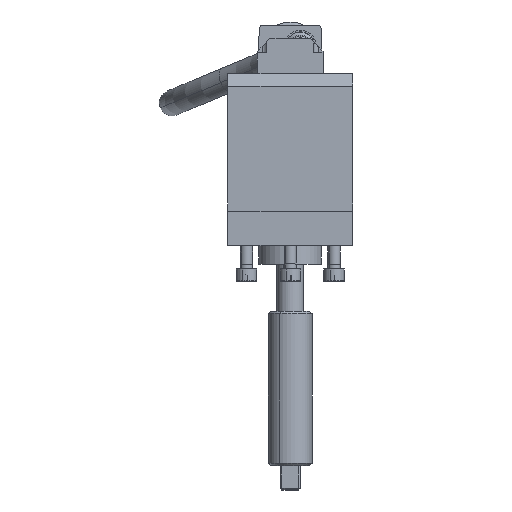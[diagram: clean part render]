
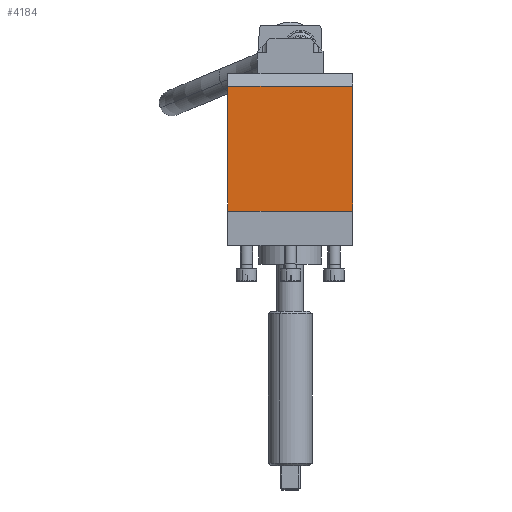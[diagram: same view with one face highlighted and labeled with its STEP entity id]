
A CAD part, top view. The second image highlights one B-rep face of the part: STEP entity #4184.
In plain terms, the highlighted planar face has unit normal (0, 0, 1).
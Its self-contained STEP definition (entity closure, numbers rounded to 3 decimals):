
#4123=CARTESIAN_POINT('Vertex',(40.,32.,510.1)) ;
#4139=CARTESIAN_POINT('Vertex',(-40.,32.,510.1)) ;
#4142=CARTESIAN_POINT('Line Origine',(0.,32.,510.1)) ;
#4154=CARTESIAN_POINT('Axis2P3D Location',(0.,-48.,510.1)) ;
#4159=CARTESIAN_POINT('Line Origine',(40.,-8.,510.1)) ;
#4163=CARTESIAN_POINT('Vertex',(40.,-48.,510.1)) ;
#4166=CARTESIAN_POINT('Line Origine',(-40.,-8.,510.1)) ;
#4170=CARTESIAN_POINT('Vertex',(-40.,-48.,510.1)) ;
#4173=CARTESIAN_POINT('Line Origine',(0.,-48.,510.1)) ;
#4143=DIRECTION('Vector Direction',(1.,0.,0.)) ;
#4155=DIRECTION('Axis2P3D Direction',(0.,0.,-1.)) ;
#4156=DIRECTION('Axis2P3D XDirection',(0.,1.,0.)) ;
#4160=DIRECTION('Vector Direction',(0.,1.,0.)) ;
#4167=DIRECTION('Vector Direction',(0.,1.,0.)) ;
#4174=DIRECTION('Vector Direction',(1.,0.,0.)) ;
#4157=AXIS2_PLACEMENT_3D('Plane Axis2P3D',#4154,#4155,#4156) ;
#4179=ORIENTED_EDGE('',*,*,#4165,.T.) ;
#4180=ORIENTED_EDGE('',*,*,#4146,.F.) ;
#4181=ORIENTED_EDGE('',*,*,#4172,.F.) ;
#4182=ORIENTED_EDGE('',*,*,#4177,.T.) ;
#4144=VECTOR('Line Direction',#4143,1.) ;
#4161=VECTOR('Line Direction',#4160,1.) ;
#4168=VECTOR('Line Direction',#4167,1.) ;
#4175=VECTOR('Line Direction',#4174,1.) ;
#4184=ADVANCED_FACE('',(#4183),#4158,.F.) ;
#4146=EDGE_CURVE('',#4140,#4124,#4145,.T.) ;
#4165=EDGE_CURVE('',#4164,#4124,#4162,.T.) ;
#4172=EDGE_CURVE('',#4171,#4140,#4169,.T.) ;
#4177=EDGE_CURVE('',#4171,#4164,#4176,.T.) ;
#4178=EDGE_LOOP('',(#4179,#4180,#4181,#4182)) ;
#4183=FACE_OUTER_BOUND('',#4178,.T.) ;
#4145=LINE('Line',#4142,#4144) ;
#4162=LINE('Line',#4159,#4161) ;
#4169=LINE('Line',#4166,#4168) ;
#4176=LINE('Line',#4173,#4175) ;
#4158=PLANE('Plane',#4157) ;
#4124=VERTEX_POINT('',#4123) ;
#4140=VERTEX_POINT('',#4139) ;
#4164=VERTEX_POINT('',#4163) ;
#4171=VERTEX_POINT('',#4170) ;
